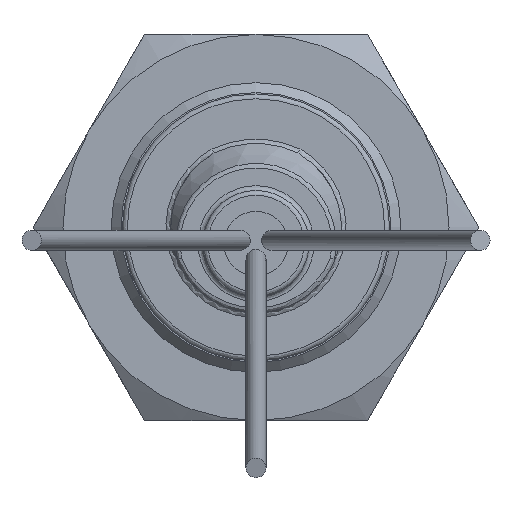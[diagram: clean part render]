
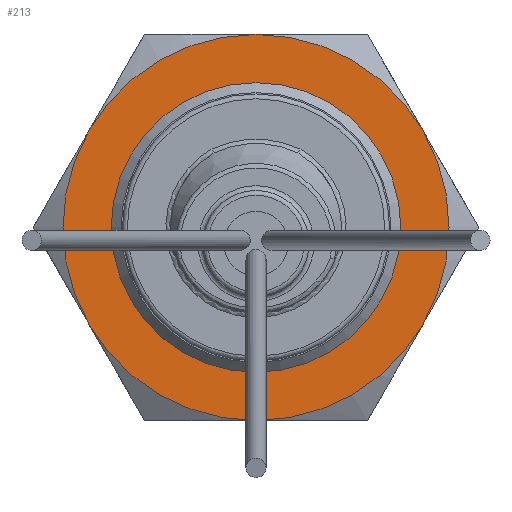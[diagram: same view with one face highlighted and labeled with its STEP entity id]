
A CAD part, left-side view. The second image highlights one B-rep face of the part: STEP entity #213.
In plain terms, the highlighted planar face has unit normal (-1, 0, 0).
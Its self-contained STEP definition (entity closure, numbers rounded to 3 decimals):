
#213 = ADVANCED_FACE( '', ( #326, #327 ), #328, .F. );
#326 = FACE_OUTER_BOUND( '', #466, .T. );
#327 = FACE_BOUND( '', #467, .T. );
#328 = PLANE( '', #468 );
#466 = EDGE_LOOP( '', ( #697, #698, #699, #700, #701, #702 ) );
#467 = EDGE_LOOP( '', ( #703 ) );
#468 = AXIS2_PLACEMENT_3D( '', #704, #705, #706 );
#697 = ORIENTED_EDGE( '', *, *, #900, .F. );
#698 = ORIENTED_EDGE( '', *, *, #901, .F. );
#699 = ORIENTED_EDGE( '', *, *, #902, .F. );
#700 = ORIENTED_EDGE( '', *, *, #903, .F. );
#701 = ORIENTED_EDGE( '', *, *, #904, .F. );
#702 = ORIENTED_EDGE( '', *, *, #905, .F. );
#703 = ORIENTED_EDGE( '', *, *, #906, .T. );
#704 = CARTESIAN_POINT( '', ( 0., 0., 0. ) );
#705 = DIRECTION( '', ( 1., 0., 0. ) );
#706 = DIRECTION( '', ( 0., 0., -1. ) );
#900 = EDGE_CURVE( '', #1024, #1025, #1026, .T. );
#901 = EDGE_CURVE( '', #1027, #1024, #1028, .T. );
#902 = EDGE_CURVE( '', #1029, #1027, #1030, .T. );
#903 = EDGE_CURVE( '', #1031, #1029, #1032, .T. );
#904 = EDGE_CURVE( '', #1033, #1031, #1034, .T. );
#905 = EDGE_CURVE( '', #1025, #1033, #1035, .T. );
#906 = EDGE_CURVE( '', #1036, #1036, #1037, .T. );
#1024 = VERTEX_POINT( '', #1254 );
#1025 = VERTEX_POINT( '', #1255 );
#1026 = CIRCLE( '', #1256, 12. );
#1027 = VERTEX_POINT( '', #1257 );
#1028 = CIRCLE( '', #1258, 12. );
#1029 = VERTEX_POINT( '', #1259 );
#1030 = CIRCLE( '', #1260, 12. );
#1031 = VERTEX_POINT( '', #1261 );
#1032 = CIRCLE( '', #1262, 12. );
#1033 = VERTEX_POINT( '', #1263 );
#1034 = CIRCLE( '', #1264, 12. );
#1035 = CIRCLE( '', #1265, 12. );
#1036 = VERTEX_POINT( '', #1266 );
#1037 = CIRCLE( '', #1267, 9. );
#1254 = CARTESIAN_POINT( '', ( 0., 10.392, -6. ) );
#1255 = CARTESIAN_POINT( '', ( 0., 10.392, 6. ) );
#1256 = AXIS2_PLACEMENT_3D( '', #1574, #1575, #1576 );
#1257 = CARTESIAN_POINT( '', ( 0., 0., -12. ) );
#1258 = AXIS2_PLACEMENT_3D( '', #1577, #1578, #1579 );
#1259 = CARTESIAN_POINT( '', ( 0., -10.392, -6. ) );
#1260 = AXIS2_PLACEMENT_3D( '', #1580, #1581, #1582 );
#1261 = CARTESIAN_POINT( '', ( 0., -10.392, 6. ) );
#1262 = AXIS2_PLACEMENT_3D( '', #1583, #1584, #1585 );
#1263 = CARTESIAN_POINT( '', ( 0., 0., 12. ) );
#1264 = AXIS2_PLACEMENT_3D( '', #1586, #1587, #1588 );
#1265 = AXIS2_PLACEMENT_3D( '', #1589, #1590, #1591 );
#1266 = CARTESIAN_POINT( '', ( 0., 0., -9. ) );
#1267 = AXIS2_PLACEMENT_3D( '', #1592, #1593, #1594 );
#1574 = CARTESIAN_POINT( '', ( 0., 0., 0. ) );
#1575 = DIRECTION( '', ( 1., 0., 0. ) );
#1576 = DIRECTION( '', ( 0., 0., -1. ) );
#1577 = CARTESIAN_POINT( '', ( 0., 0., 0. ) );
#1578 = DIRECTION( '', ( 1., 0., 0. ) );
#1579 = DIRECTION( '', ( 0., 0., -1. ) );
#1580 = CARTESIAN_POINT( '', ( 0., 0., 0. ) );
#1581 = DIRECTION( '', ( 1., 0., 0. ) );
#1582 = DIRECTION( '', ( 0., 0., -1. ) );
#1583 = CARTESIAN_POINT( '', ( 0., 0., 0. ) );
#1584 = DIRECTION( '', ( 1., 0., 0. ) );
#1585 = DIRECTION( '', ( 0., 0., -1. ) );
#1586 = CARTESIAN_POINT( '', ( 0., 0., 0. ) );
#1587 = DIRECTION( '', ( 1., 0., 0. ) );
#1588 = DIRECTION( '', ( 0., 0., -1. ) );
#1589 = CARTESIAN_POINT( '', ( 0., 0., 0. ) );
#1590 = DIRECTION( '', ( 1., 0., 0. ) );
#1591 = DIRECTION( '', ( 0., 0., -1. ) );
#1592 = CARTESIAN_POINT( '', ( 0., 0., 0. ) );
#1593 = DIRECTION( '', ( 1., 0., 0. ) );
#1594 = DIRECTION( '', ( 0., 0., -1. ) );
